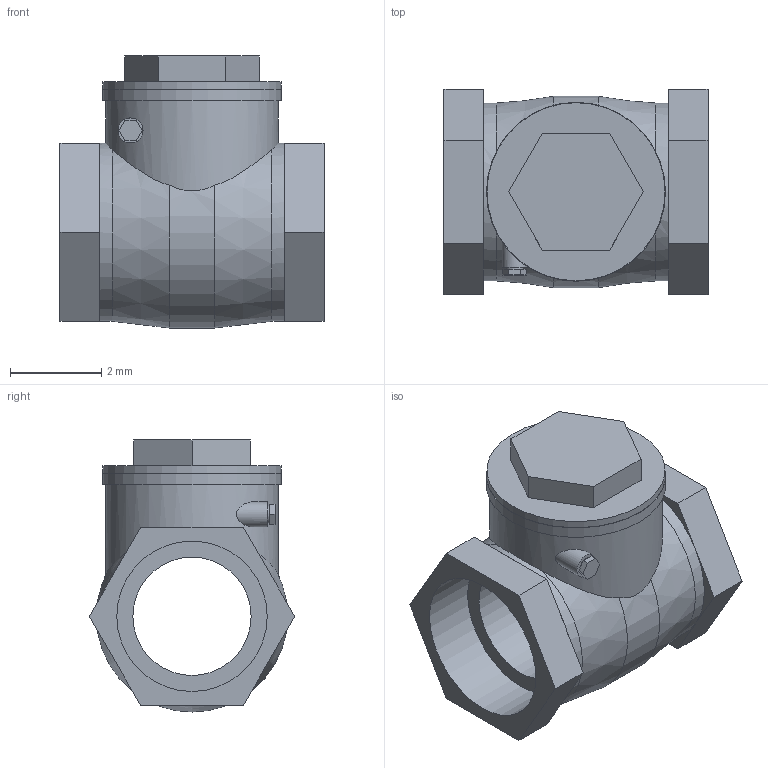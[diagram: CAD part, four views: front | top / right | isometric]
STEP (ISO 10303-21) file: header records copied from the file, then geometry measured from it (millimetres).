
FILE_DESCRIPTION(('Open CASCADE Model'),'2;1');
FILE_NAME('Open CASCADE Shape Model','2022-05-04T14:08:41',('Author'),( 'Open CASCADE'),'Open CASCADE STEP processor 7.3','Open CASCADE 7.3' ,'Unknown');
FILE_SCHEMA(('AUTOMOTIVE_DESIGN { 1 0 10303 214 1 1 1 1 }'));
Length unit declared in the file: millimetre
Products named in the file (1): Open CASCADE STEP translator 7.3 1
Bounding box: 5.78 x 4.5 x 5.96 mm (x, y, z)
Volume: 57.4 mm3; surface area: 173.2 mm2
Topology: 1 solids, 1 shells, 60 faces, 136 edges, 86 vertices
Faces by surface type: plane 47, cylinder 11, cone 2
Full cylindrical faces by diameter (mm): 0.38 x1, 0.547 x1, 2.59 x1, 3.292 x2, 3.778 x1, 3.896 x2, 3.9 x1, 3.917 x1
Entity records: 4751 total; most frequent: CARTESIAN_POINT 2005, DIRECTION 500, LINE 308, VECTOR 308, ORIENTED_EDGE 272, PCURVE 272, DEFINITIONAL_REPRESENTATION 272, EDGE_CURVE 136
